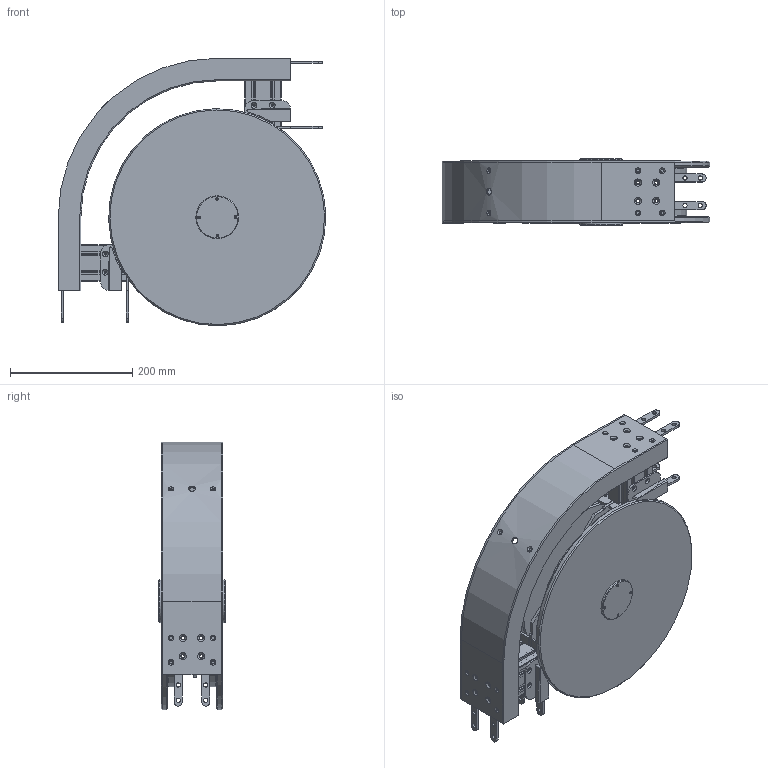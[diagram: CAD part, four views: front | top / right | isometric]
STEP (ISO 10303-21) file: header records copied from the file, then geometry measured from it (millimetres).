
FILE_DESCRIPTION (( 'STEP AP203' ), '1' );
FILE_NAME ('2000.450.590.STEP', '2018-03-12T15:45:19', ( '' ), ( '' ), 'SwSTEP 2.0', 'SolidWorks 2016', '' );
FILE_SCHEMA (( 'CONFIG_CONTROL_DESIGN' ));
Length unit declared in the file: millimetre
Products named in the file (14): 2000.325.514; 2000.325.402; 2000.450.412; 2000.325.501-2; 2000.325.502-4; 2000.450.502; 2000.325.513-3; 2000.450.004_Default<A macchina>; 2000.325.401; 2000.450.590; 2000.450.401; 2000.450.501; 2000.450.503; radial ball bearing_68_skf_SKF - 16005 - 14,DE,NC,14_68
Assembly tree (27 placements, depth 2):
  2000.450.590
    2000.325.501-2
    2000.325.502-4
    2000.325.513-3  x2
    2000.325.402  x2
    2000.325.514  x2
    2000.325.401  x4
    radial ball bearing_68_skf_SKF - 16005 - 14,DE,NC,14_68  x4
    2000.450.401
    2000.450.412  x2
    2000.450.004_Default<A macchina>  x2
    2000.450.501  x2
    2000.450.502  x2
    2000.450.503  x2
Bounding box: 437.49 x 109 x 437.49 mm (x, y, z)
Volume: 5211618.2 mm3; surface area: 1166938.2 mm2
Topology: 27 solids, 27 shells, 1587 faces, 4967 edges, 3230 vertices
Faces by surface type: cylinder 562, plane 555, torus 232, cone 116, sphere 112, bspline 10
Entity records: 29215 total; most frequent: CARTESIAN_POINT 7573, DIRECTION 4192, ORIENTED_EDGE 4156, EDGE_CURVE 2078, AXIS2_PLACEMENT_3D 1583, VERTEX_POINT 1353, VECTOR 1026, LINE 1026
